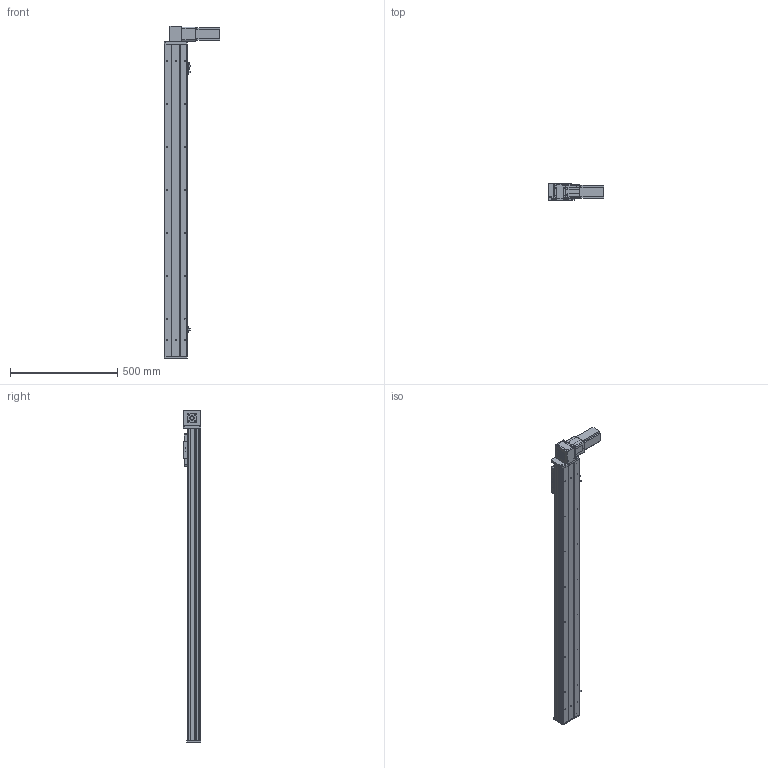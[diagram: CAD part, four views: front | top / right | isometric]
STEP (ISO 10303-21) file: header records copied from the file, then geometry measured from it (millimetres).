
FILE_DESCRIPTION (( 'STEP AP203' ), '1' );
FILE_NAME ('Y10CB-D90-S1200-BD-P400W.STEP', '2020-02-17T02:37:40', ( '微软用户' ), ( '微软中国' ), 'SwSTEP 2.0', 'SolidWorks 2017', '' );
FILE_SCHEMA (( 'CONFIG_CONTROL_DESIGN' ));
Length unit declared in the file: millimetre
Products named in the file (16): 0B-薊粣ん眊; 10CB-詩湍-; Y10CB-D90-S1200-BD-P400W; Y10CB- 掛极耜裔啣-毀---; Y10C---詩湍揤啣; 0CB-雄赽釱---; 10CB9-掛极; 0Cb-俋欶---; 10CB-耜裔; Y10B-々湍喘謫眊楊擘啣--; Y135C-陔俋离換覜結え-; san松下电机400不带刹车----; Y100-135俋离換覜ん--; 0B-源倛裔啣; Y10B--々湍喘謫眊--666; 0B-埴倛裔啣
Assembly tree (19 placements, depth 2):
  Y10CB-D90-S1200-BD-P400W
    0CB-雄赽釱---
    0Cb-俋欶---
    Y10B-々湍喘謫眊楊擘啣--
    san松下电机400不带刹车----
    0B-源倛裔啣
    0B-埴倛裔啣
    10CB-詩湍-
    Y10CB- 掛极耜裔啣-毀---  x2
    Y10C---詩湍揤啣  x2
    10CB9-掛极
    10CB-耜裔
    Y135C-陔俋离換覜結え-
    Y100-135俋离換覜ん--  x3
    Y10B--々湍喘謫眊--666
    0B-薊粣ん眊
Bounding box: 258 x 80.5 x 1546 mm (x, y, z)
Volume: 3485206.5 mm3; surface area: 1543922.4 mm2
Topology: 19 solids, 19 shells, 912 faces, 2422 edges, 1580 vertices
Faces by surface type: cylinder 450, plane 438, cone 24
Entity records: 28069 total; most frequent: CARTESIAN_POINT 5052, DIRECTION 4525, ORIENTED_EDGE 4314, EDGE_CURVE 2157, AXIS2_PLACEMENT_3D 1623, VERTEX_POINT 1406, VECTOR 1279, LINE 1279
